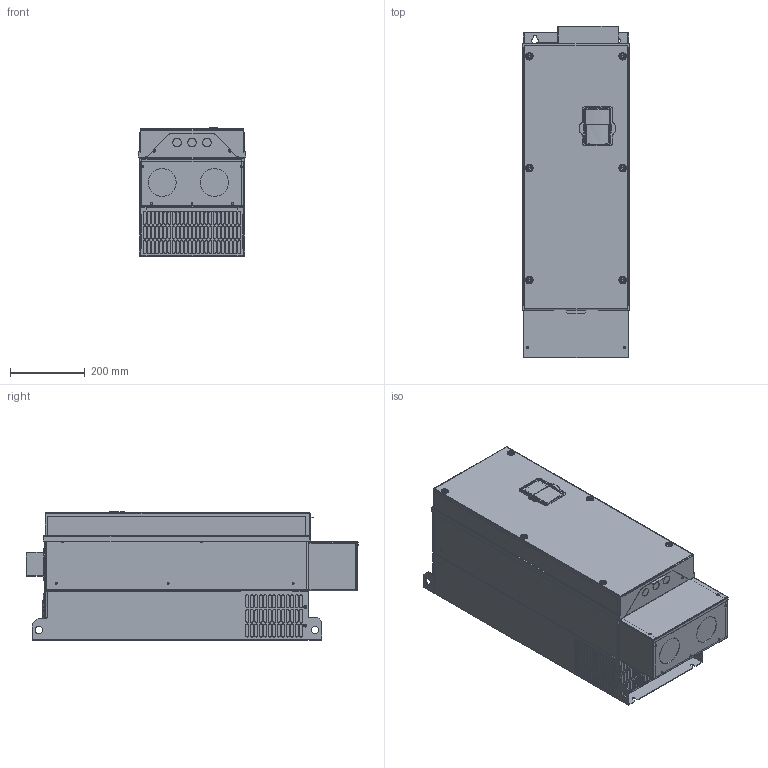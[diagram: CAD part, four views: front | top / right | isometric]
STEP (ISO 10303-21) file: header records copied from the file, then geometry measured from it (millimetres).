
FILE_DESCRIPTION((''),'2;1');
FILE_NAME('C:\Users\E0021267\Desktop\CAD Model Project\ECO-061491 - DG1 - In Process\DG1_FN_(FR5-UL).stp','2014-05-08T16:43:10',('E0021267'),(''),'Autodesk Inventor 2013','Autodesk Inventor 2013','');
FILE_SCHEMA(('AUTOMOTIVE_DESIGN { 1 2 10303 214 0 1 1 1 }'));
Length unit declared in the file: millimetre
Products named in the file (1): DG1_FN_(FR5-UL)
Bounding box: 288 x 889.8 x 343.12 mm (x, y, z)
Volume: 596796.3 mm3; surface area: 2278035.2 mm2
Topology: 2 solids, 3 shells, 2119 faces, 5380 edges, 3252 vertices
Faces by surface type: plane 1122, cylinder 723, torus 95, bspline 90, cone 47, sphere 42
Full cylindrical faces by diameter (mm): 1.8 x24, 2.5 x1, 3.3 x2, 4 x14, 4.5 x1, 5 x32, 5.5 x7, 20 x4, 22.5 x3, 75 x2, 118 x1, 118.001 x1
Entity records: 68910 total; most frequent: CARTESIAN_POINT 16149, DIRECTION 10773, ORIENTED_EDGE 10338, EDGE_CURVE 5169, AXIS2_PLACEMENT_3D 3740, VECTOR 3293, LINE 3293, VERTEX_POINT 3213
